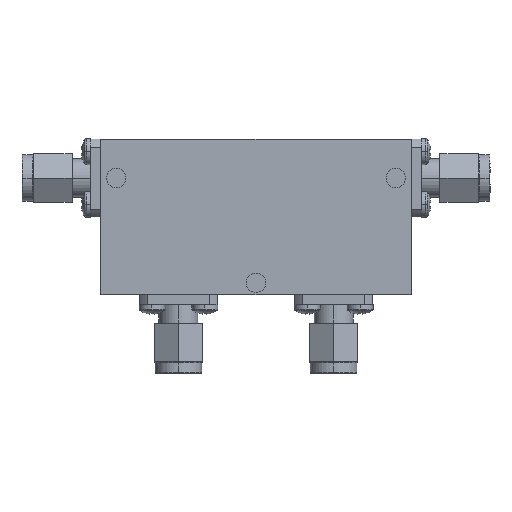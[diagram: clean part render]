
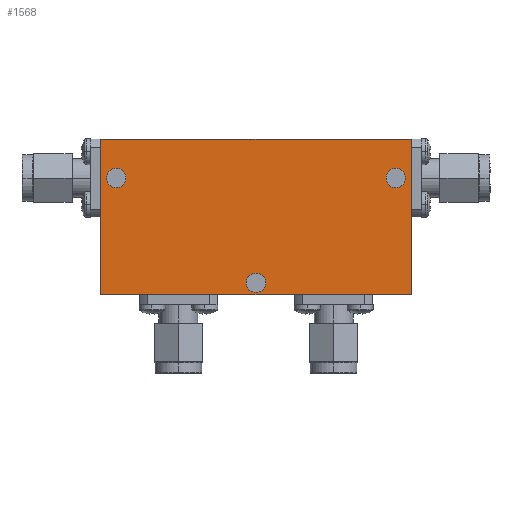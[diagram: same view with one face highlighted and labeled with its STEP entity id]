
A CAD part, top view. The second image highlights one B-rep face of the part: STEP entity #1568.
In plain terms, the highlighted planar face has unit normal (0, 0, 1).
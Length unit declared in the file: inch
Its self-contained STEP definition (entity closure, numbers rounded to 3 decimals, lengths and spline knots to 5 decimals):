
#73 = DIRECTION ( 'NONE',  ( 1., 0., 0. ) ) ;
#123 = CARTESIAN_POINT ( 'NONE',  ( 1., 0.5, 0.25 ) ) ;
#210 = EDGE_CURVE ( 'NONE', #3151, #2095, #391, .T. ) ;
#227 = DIRECTION ( 'NONE',  ( 1., 0., 0. ) ) ;
#269 = FACE_BOUND ( 'NONE', #1032, .T. ) ;
#287 = DIRECTION ( 'NONE',  ( 1., 0., 0. ) ) ;
#323 = ORIENTED_EDGE ( 'NONE', *, *, #1425, .F. ) ;
#345 = EDGE_LOOP ( 'NONE', ( #544, #534 ) ) ;
#349 = DIRECTION ( 'NONE',  ( 0., 0., 1. ) ) ;
#390 = ORIENTED_EDGE ( 'NONE', *, *, #2155, .T. ) ;
#391 = CIRCLE ( 'NONE', #1804, 0.0625 ) ;
#397 = VERTEX_POINT ( 'NONE', #2696 ) ;
#534 = ORIENTED_EDGE ( 'NONE', *, *, #210, .F. ) ;
#544 = ORIENTED_EDGE ( 'NONE', *, *, #2645, .F. ) ;
#570 = EDGE_CURVE ( 'NONE', #397, #1144, #2688, .T. ) ;
#578 = CARTESIAN_POINT ( 'NONE',  ( -0.9, 0.25, 0.25 ) ) ;
#589 = VECTOR ( 'NONE', #227, 39.37008 ) ;
#612 = LINE ( 'NONE', #1556, #2548 ) ;
#646 = DIRECTION ( 'NONE',  ( 1., 0., 0. ) ) ;
#694 = VERTEX_POINT ( 'NONE', #1040 ) ;
#734 = CARTESIAN_POINT ( 'NONE',  ( 0., 0., 0.25 ) ) ;
#739 = CARTESIAN_POINT ( 'NONE',  ( 0.8375, 0.25, 0.25 ) ) ;
#773 = DIRECTION ( 'NONE',  ( 0., 0., 1. ) ) ;
#782 = FACE_BOUND ( 'NONE', #2726, .T. ) ;
#799 = AXIS2_PLACEMENT_3D ( 'NONE', #1475, #1510, #1777 ) ;
#919 = CARTESIAN_POINT ( 'NONE',  ( -1., 0.5, 0.25 ) ) ;
#921 = EDGE_CURVE ( 'NONE', #1293, #2423, #2435, .T. ) ;
#959 = EDGE_LOOP ( 'NONE', ( #1080, #390, #1717, #2933 ) ) ;
#1032 = EDGE_LOOP ( 'NONE', ( #2946, #2598 ) ) ;
#1038 = LINE ( 'NONE', #123, #2308 ) ;
#1040 = CARTESIAN_POINT ( 'NONE',  ( 0.9625, 0.25, 0.25 ) ) ;
#1080 = ORIENTED_EDGE ( 'NONE', *, *, #1118, .T. ) ;
#1118 = EDGE_CURVE ( 'NONE', #1144, #1209, #1038, .T. ) ;
#1140 = DIRECTION ( 'NONE',  ( 0., -1., 0. ) ) ;
#1144 = VERTEX_POINT ( 'NONE', #3335 ) ;
#1209 = VERTEX_POINT ( 'NONE', #3068 ) ;
#1245 = CARTESIAN_POINT ( 'NONE',  ( -1., 0.5, 0.25 ) ) ;
#1293 = VERTEX_POINT ( 'NONE', #1471 ) ;
#1408 = DIRECTION ( 'NONE',  ( 0., 0., 1. ) ) ;
#1425 = EDGE_CURVE ( 'NONE', #2423, #1293, #2514, .T. ) ;
#1446 = VECTOR ( 'NONE', #1140, 39.37008 ) ;
#1470 = VERTEX_POINT ( 'NONE', #739 ) ;
#1471 = CARTESIAN_POINT ( 'NONE',  ( -0.8375, 0.25, 0.25 ) ) ;
#1475 = CARTESIAN_POINT ( 'NONE',  ( 0.9, 0.25, 0.25 ) ) ;
#1510 = DIRECTION ( 'NONE',  ( 0., 0., 1. ) ) ;
#1556 = CARTESIAN_POINT ( 'NONE',  ( -1., 0.5, 0.25 ) ) ;
#1568 = ADVANCED_FACE ( 'NONE', ( #269, #2961, #782, #2349 ), #2302, .T. ) ;
#1611 = DIRECTION ( 'NONE',  ( 0., 0., 1. ) ) ;
#1717 = ORIENTED_EDGE ( 'NONE', *, *, #3268, .T. ) ;
#1776 = AXIS2_PLACEMENT_3D ( 'NONE', #2207, #1408, #646 ) ;
#1777 = DIRECTION ( 'NONE',  ( 1., 0., 0. ) ) ;
#1795 = LINE ( 'NONE', #919, #1446 ) ;
#1804 = AXIS2_PLACEMENT_3D ( 'NONE', #2415, #1611, #73 ) ;
#1809 = DIRECTION ( 'NONE',  ( 1., 0., 0. ) ) ;
#1837 = CARTESIAN_POINT ( 'NONE',  ( -0.9, 0.25, 0.25 ) ) ;
#1885 = DIRECTION ( 'NONE',  ( 1., 0., 0. ) ) ;
#2052 = CARTESIAN_POINT ( 'NONE',  ( 0., -0.425, 0.25 ) ) ;
#2095 = VERTEX_POINT ( 'NONE', #2386 ) ;
#2114 = CIRCLE ( 'NONE', #2622, 0.0625 ) ;
#2155 = EDGE_CURVE ( 'NONE', #1209, #3159, #612, .T. ) ;
#2182 = AXIS2_PLACEMENT_3D ( 'NONE', #578, #349, #1885 ) ;
#2192 = DIRECTION ( 'NONE',  ( 0., 1., 0. ) ) ;
#2207 = CARTESIAN_POINT ( 'NONE',  ( 0.9, 0.25, 0.25 ) ) ;
#2280 = DIRECTION ( 'NONE',  ( 0., 0., 1. ) ) ;
#2287 = CARTESIAN_POINT ( 'NONE',  ( -1., -0.5, 0.25 ) ) ;
#2302 = PLANE ( 'NONE',  #2676 ) ;
#2308 = VECTOR ( 'NONE', #2192, 39.37008 ) ;
#2349 = FACE_OUTER_BOUND ( 'NONE', #959, .T. ) ;
#2386 = CARTESIAN_POINT ( 'NONE',  ( 0.0625, -0.425, 0.25 ) ) ;
#2400 = EDGE_CURVE ( 'NONE', #694, #1470, #2458, .T. ) ;
#2415 = CARTESIAN_POINT ( 'NONE',  ( 0., -0.425, 0.25 ) ) ;
#2423 = VERTEX_POINT ( 'NONE', #2807 ) ;
#2429 = ORIENTED_EDGE ( 'NONE', *, *, #921, .F. ) ;
#2435 = CIRCLE ( 'NONE', #2182, 0.0625 ) ;
#2458 = CIRCLE ( 'NONE', #1776, 0.0625 ) ;
#2514 = CIRCLE ( 'NONE', #2864, 0.0625 ) ;
#2548 = VECTOR ( 'NONE', #2634, 39.37008 ) ;
#2598 = ORIENTED_EDGE ( 'NONE', *, *, #2989, .F. ) ;
#2622 = AXIS2_PLACEMENT_3D ( 'NONE', #2052, #773, #1809 ) ;
#2634 = DIRECTION ( 'NONE',  ( -1., 0., 0. ) ) ;
#2645 = EDGE_CURVE ( 'NONE', #2095, #3151, #2114, .T. ) ;
#2676 = AXIS2_PLACEMENT_3D ( 'NONE', #734, #2280, #2808 ) ;
#2688 = LINE ( 'NONE', #2287, #589 ) ;
#2696 = CARTESIAN_POINT ( 'NONE',  ( -1., -0.5, 0.25 ) ) ;
#2701 = CIRCLE ( 'NONE', #799, 0.0625 ) ;
#2726 = EDGE_LOOP ( 'NONE', ( #2429, #323 ) ) ;
#2807 = CARTESIAN_POINT ( 'NONE',  ( -0.9625, 0.25, 0.25 ) ) ;
#2808 = DIRECTION ( 'NONE',  ( 1., 0., 0. ) ) ;
#2864 = AXIS2_PLACEMENT_3D ( 'NONE', #1837, #3155, #287 ) ;
#2877 = CARTESIAN_POINT ( 'NONE',  ( -0.0625, -0.425, 0.25 ) ) ;
#2933 = ORIENTED_EDGE ( 'NONE', *, *, #570, .T. ) ;
#2946 = ORIENTED_EDGE ( 'NONE', *, *, #2400, .F. ) ;
#2961 = FACE_BOUND ( 'NONE', #345, .T. ) ;
#2989 = EDGE_CURVE ( 'NONE', #1470, #694, #2701, .T. ) ;
#3068 = CARTESIAN_POINT ( 'NONE',  ( 1., 0.5, 0.25 ) ) ;
#3151 = VERTEX_POINT ( 'NONE', #2877 ) ;
#3155 = DIRECTION ( 'NONE',  ( 0., 0., 1. ) ) ;
#3159 = VERTEX_POINT ( 'NONE', #1245 ) ;
#3268 = EDGE_CURVE ( 'NONE', #3159, #397, #1795, .T. ) ;
#3335 = CARTESIAN_POINT ( 'NONE',  ( 1., -0.5, 0.25 ) ) ;
